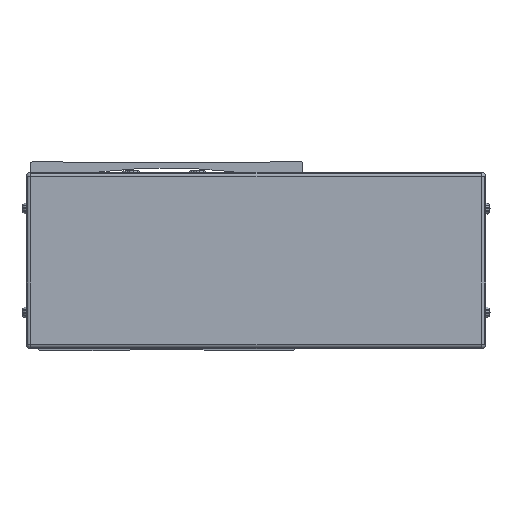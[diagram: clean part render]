
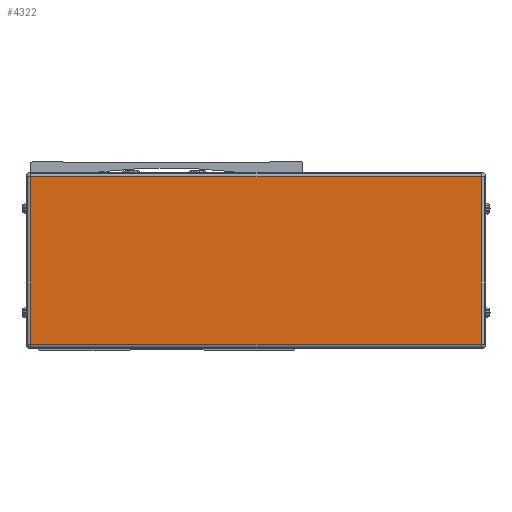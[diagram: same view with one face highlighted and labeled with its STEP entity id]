
A CAD part, front view. The second image highlights one B-rep face of the part: STEP entity #4322.
In plain terms, the highlighted planar face has unit normal (0, -1, 0).
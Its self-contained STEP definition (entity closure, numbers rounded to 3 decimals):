
#4322=ADVANCED_FACE('',(#9696),#9697,.T.);
#9696=FACE_OUTER_BOUND('',#16730,.T.);
#9697=PLANE('',#16731);
#16730=EDGE_LOOP('',(#30208,#30209,#30210,#30211));
#16731=AXIS2_PLACEMENT_3D('',#30212,#30213,#30214);
#30208=ORIENTED_EDGE('',*,*,#44803,.F.);
#30209=ORIENTED_EDGE('',*,*,#44804,.F.);
#30210=ORIENTED_EDGE('',*,*,#44805,.F.);
#30211=ORIENTED_EDGE('',*,*,#44806,.F.);
#30212=CARTESIAN_POINT('',(-259.5,-613.778,-8.));
#30213=DIRECTION('',(0.,-1.0,0.));
#30214=DIRECTION('',(1.0,0.,0.));
#44803=EDGE_CURVE('',#54831,#54832,#54833,.T.);
#44804=EDGE_CURVE('',#54834,#54831,#54835,.T.);
#44805=EDGE_CURVE('',#54836,#54834,#54837,.T.);
#44806=EDGE_CURVE('',#54832,#54836,#54838,.T.);
#54831=VERTEX_POINT('',#68677);
#54832=VERTEX_POINT('',#68678);
#54833=LINE('',#68679,#68680);
#54834=VERTEX_POINT('',#68681);
#54835=LINE('',#68682,#68683);
#54836=VERTEX_POINT('',#68684);
#54837=LINE('',#68685,#68686);
#54838=LINE('',#68687,#68688);
#68677=CARTESIAN_POINT('',(-157.3,-613.778,30.));
#68678=CARTESIAN_POINT('',(-157.3,-613.778,-46.));
#68679=CARTESIAN_POINT('',(-157.3,-613.778,-8.));
#68680=VECTOR('',#80874,10.0);
#68681=CARTESIAN_POINT('',(-361.7,-613.778,30.));
#68682=CARTESIAN_POINT('',(-259.5,-613.778,30.));
#68683=VECTOR('',#80875,10.0);
#68684=CARTESIAN_POINT('',(-361.7,-613.778,-46.));
#68685=CARTESIAN_POINT('',(-361.7,-613.778,-8.));
#68686=VECTOR('',#80876,10.0);
#68687=CARTESIAN_POINT('',(-259.5,-613.778,-46.));
#68688=VECTOR('',#80877,10.0);
#80874=DIRECTION('',(0.0,0.,-1.0));
#80875=DIRECTION('',(1.0,0.,0.));
#80876=DIRECTION('',(0.0,0.,1.0));
#80877=DIRECTION('',(-1.0,0.,0.));
